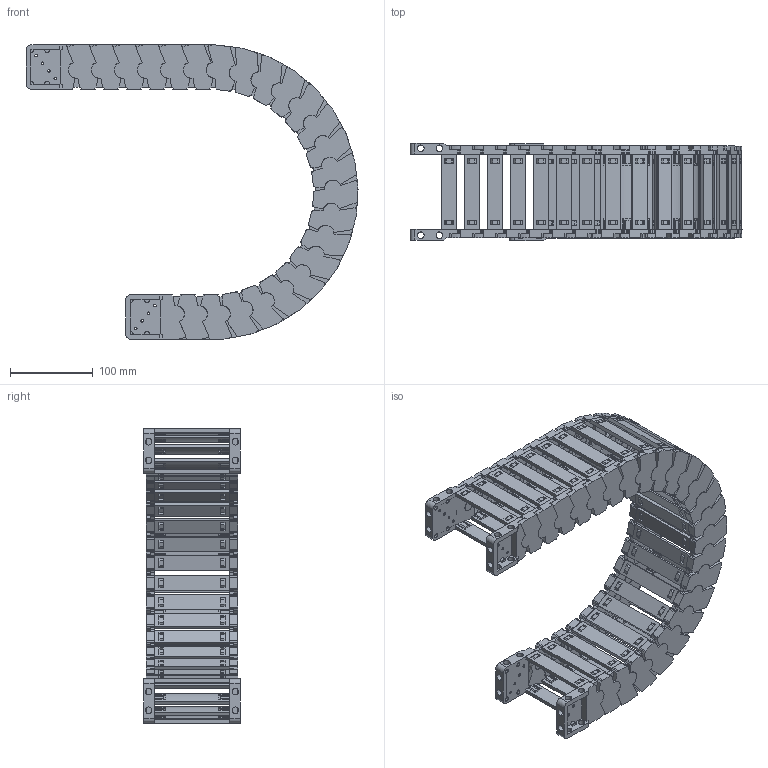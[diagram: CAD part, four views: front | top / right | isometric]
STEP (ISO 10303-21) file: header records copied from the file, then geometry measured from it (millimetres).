
FILE_DESCRIPTION((''),'2;1');
FILE_NAME('JY-42X90-R150_ASM','2025-09-11T11:19:48',('admin'),(''),'CREO PARAMETRIC BY PTC INC, 2021023','CREO PARAMETRIC BY PTC INC, 2021023','');
FILE_SCHEMA(('CONFIG_CONTROL_DESIGN'));
Length unit declared in the file: millimetre
Products named in the file (11): 42XL-L; 42-52XL-YP; 42XL-R; ASM0001_ASM; 42-LTT-A-L; 42-LTT-A-R; 42XL-LTT-A_ASM; 42-LTT-B-L; 42-LTT-B-R; 42XL-LTT-B_ASM; JY-42X90-R150_ASM
Assembly tree (38 placements, depth 3):
  JY-42X90-R150_ASM
    ASM0001_ASM  x24
      42XL-L
      42-52XL-YP
      42XL-R
    42XL-LTT-A_ASM
      42-LTT-A-L
      42-52XL-YP  x2
      42-LTT-A-R
    42XL-LTT-B_ASM
      42-LTT-B-L
      42-52XL-YP  x2
      42-LTT-B-R
Bounding box: 401.18 x 117 x 355.48 mm (x, y, z)
Volume: 1096049.8 mm3; surface area: 630751.8 mm2
Topology: 104 solids, 104 shells, 5658 faces, 16968 edges, 11484 vertices
Faces by surface type: plane 3790, cylinder 1298, cone 470, bspline 82, torus 18
Entity records: 26529 total; most frequent: CARTESIAN_POINT 7344, ORIENTED_EDGE 4024, DIRECTION 3974, EDGE_CURVE 2012, AXIS2_PLACEMENT_3D 1437, VERTEX_POINT 1360, VECTOR 1100, LINE 1100
